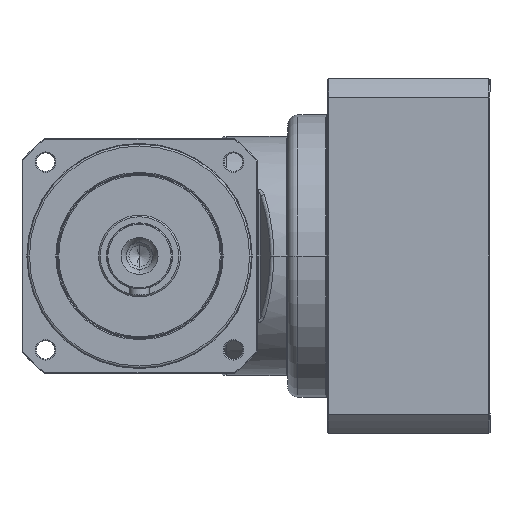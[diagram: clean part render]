
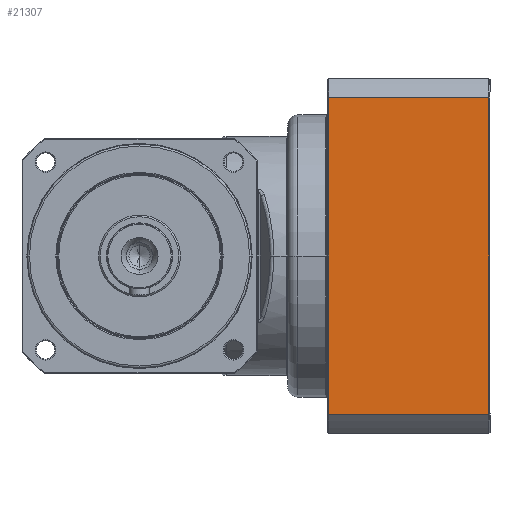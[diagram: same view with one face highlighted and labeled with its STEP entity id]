
A CAD part, left-side view. The second image highlights one B-rep face of the part: STEP entity #21307.
In plain terms, the highlighted planar face has unit normal (-1, 0, 0) as drawn and (0, -1, 0) by its records, which use the part's own axes.
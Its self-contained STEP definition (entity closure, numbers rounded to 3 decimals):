
#20163=DIRECTION('',(1.,0.,0.));
#20164=VECTOR('',#20163,154.961);
#20165=CARTESIAN_POINT('',(-77.481,-87.,
3.));
#20166=LINE('',#20165,#20164);
#20167=DIRECTION('',(0.,0.,1.));
#20168=VECTOR('',#20167,78.5);
#20169=CARTESIAN_POINT('',(-77.481,-87.,
3.));
#20170=LINE('',#20169,#20168);
#20171=DIRECTION('',(1.,0.,0.));
#20172=VECTOR('',#20171,154.961);
#20173=CARTESIAN_POINT('',(-77.481,-87.,
81.5));
#20174=LINE('',#20173,#20172);
#20175=DIRECTION('',(0.,0.,1.));
#20176=VECTOR('',#20175,78.5);
#20177=CARTESIAN_POINT('',(77.481,-87.,
3.));
#20178=LINE('',#20177,#20176);
#20872=CARTESIAN_POINT('',(-77.481,-87.,
81.5));
#20873=CARTESIAN_POINT('',(77.481,-87.,
81.5));
#20874=VERTEX_POINT('',#20872);
#20875=VERTEX_POINT('',#20873);
#20909=CARTESIAN_POINT('',(-77.481,-87.,3.));
#20911=VERTEX_POINT('',#20909);
#20914=CARTESIAN_POINT('',(77.481,-87.,
3.));
#20915=VERTEX_POINT('',#20914);
#21293=CARTESIAN_POINT('',(-87.,-87.,0.));
#21294=DIRECTION('',(0.,-1.,0.));
#21295=DIRECTION('',(1.,0.,0.));
#21296=AXIS2_PLACEMENT_3D('',#21293,#21294,#21295);
#21297=PLANE('',#21296);
#21298=ORIENTED_EDGE('',*,*,#21287,.F.);
#21300=ORIENTED_EDGE('',*,*,#21299,.T.);
#21302=ORIENTED_EDGE('',*,*,#21301,.T.);
#21304=ORIENTED_EDGE('',*,*,#21303,.F.);
#21305=EDGE_LOOP('',(#21298,#21300,#21302,#21304));
#21306=FACE_OUTER_BOUND('',#21305,.F.);
#21307=ADVANCED_FACE('',(#21306),#21297,.T.);
#21287=EDGE_CURVE('',#20911,#20915,#20166,.T.);
#21299=EDGE_CURVE('',#20911,#20874,#20170,.T.);
#21301=EDGE_CURVE('',#20874,#20875,#20174,.T.);
#21303=EDGE_CURVE('',#20915,#20875,#20178,.T.);
